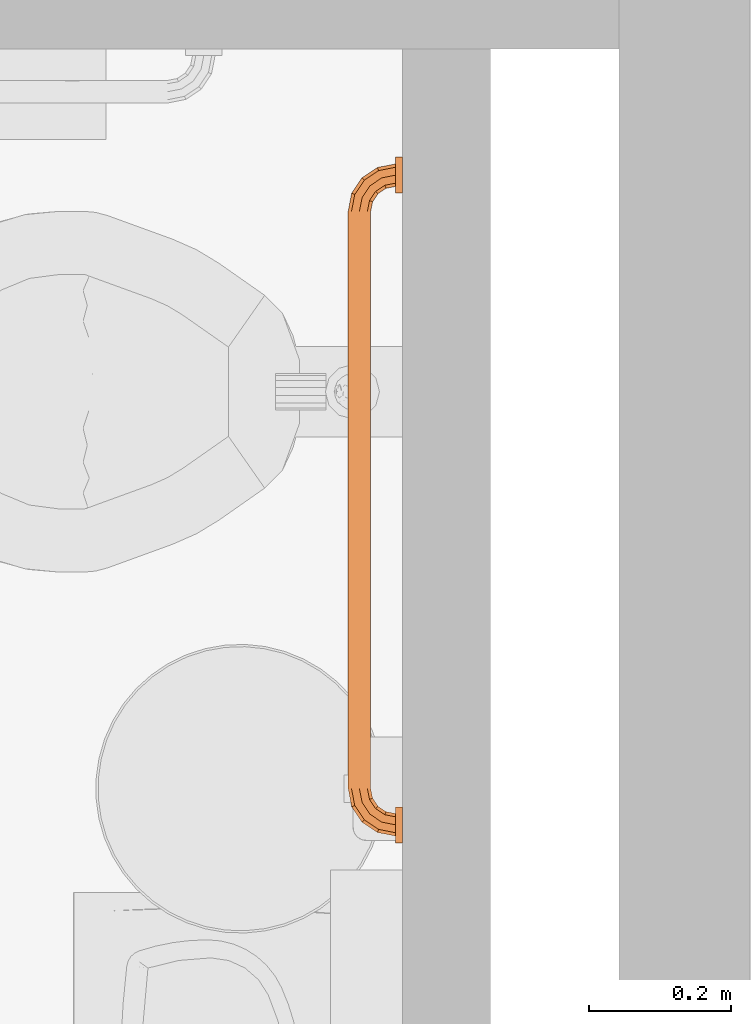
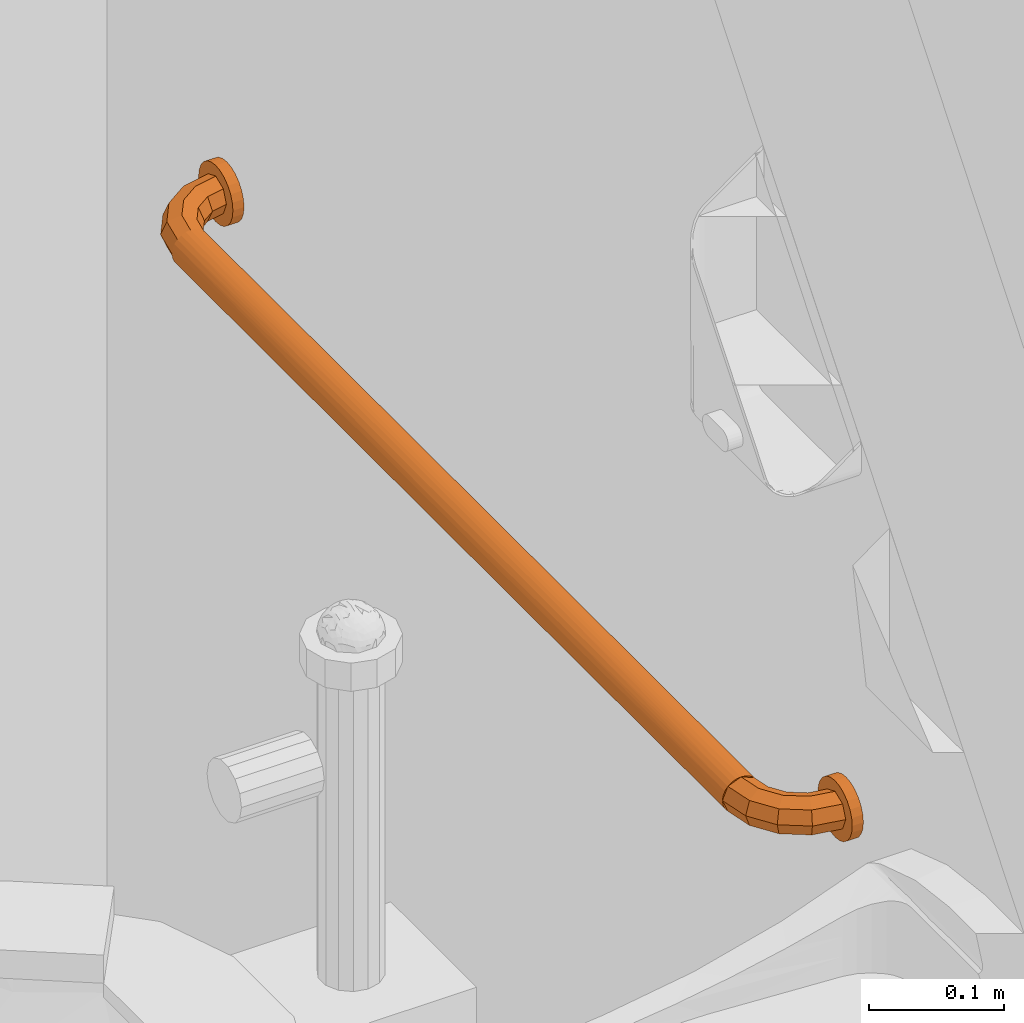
# One storey, part 142 of 142: 1 proxy.
"""IFC2X3 building model written with IfcOpenShell, lengths in feet."""

from ifc_helpers import new_model, entity, si_unit, converted_unit, derived_unit, direction, frame, origin, place, context, subcontext, project, spatial, faceted_brep, source, transform, mapped, type_object, type_shapes, element, save


model = new_model("IFC2X3")

# Units and contexts
model_context = context("Model", 3, precision=0.0001, world=origin(), true_north=direction((6.12303176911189e-17, 1.0)))
body_context = subcontext(model_context, "Body", "Model", "MODEL_VIEW")
ifc_project = project(units=[converted_unit("LENGTHUNIT", "FOOT", entity("IfcRatioMeasure", 0.3048), si_unit("LENGTHUNIT", "METRE"), dimensions=[1, 0, 0, 0, 0, 0, 0]), converted_unit("AREAUNIT", "SQUARE FOOT", entity("IfcRatioMeasure", 0.09290304), si_unit("AREAUNIT", "SQUARE_METRE"), dimensions=[2, 0, 0, 0, 0, 0, 0]), converted_unit("VOLUMEUNIT", "CUBIC FOOT", entity("IfcRatioMeasure", 0.028316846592), si_unit("VOLUMEUNIT", "CUBIC_METRE"), dimensions=[3, 0, 0, 0, 0, 0, 0]), converted_unit("PLANEANGLEUNIT", "DEGREE", entity("IfcRatioMeasure", 0.0174532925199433), si_unit("PLANEANGLEUNIT", "RADIAN"), dimensions=[0, 0, 0, 0, 0, 0, 0]), si_unit("MASSUNIT", "GRAM", prefix="KILO"), derived_unit("MASSDENSITYUNIT", [(si_unit("MASSUNIT", "GRAM", prefix="KILO"), 1), (si_unit("LENGTHUNIT", "METRE"), -3)]), si_unit("TIMEUNIT", "SECOND"), si_unit("FREQUENCYUNIT", "HERTZ"), si_unit("THERMODYNAMICTEMPERATUREUNIT", "DEGREE_CELSIUS"), derived_unit("THERMALTRANSMITTANCEUNIT", [(si_unit("MASSUNIT", "GRAM", prefix="KILO"), 1), (si_unit("THERMODYNAMICTEMPERATUREUNIT", "KELVIN"), -1), (si_unit("TIMEUNIT", "SECOND"), -3)]), derived_unit("VOLUMETRICFLOWRATEUNIT", [(si_unit("LENGTHUNIT", "METRE"), 3), (si_unit("TIMEUNIT", "SECOND"), -1)]), si_unit("ELECTRICCURRENTUNIT", "AMPERE"), si_unit("ELECTRICVOLTAGEUNIT", "VOLT"), si_unit("POWERUNIT", "WATT"), si_unit("FORCEUNIT", "NEWTON"), si_unit("ILLUMINANCEUNIT", "LUX"), si_unit("LUMINOUSFLUXUNIT", "LUMEN"), si_unit("LUMINOUSINTENSITYUNIT", "CANDELA"), derived_unit("USERDEFINED", [(si_unit("MASSUNIT", "GRAM", prefix="KILO"), -1), (si_unit("LENGTHUNIT", "METRE"), -2), (si_unit("TIMEUNIT", "SECOND"), 3), (si_unit("LUMINOUSFLUXUNIT", "LUMEN"), 1)]), derived_unit("LINEARVELOCITYUNIT", [(si_unit("LENGTHUNIT", "METRE"), 1), (si_unit("TIMEUNIT", "SECOND"), -1)]), si_unit("PRESSUREUNIT", "PASCAL"), derived_unit("USERDEFINED", [(si_unit("LENGTHUNIT", "METRE"), -2), (si_unit("MASSUNIT", "GRAM", prefix="KILO"), 1), (si_unit("TIMEUNIT", "SECOND"), -2)])], contexts=[model_context])

# Site, building, storey, space
site_placement = place(None, origin())
site = spatial("IfcSite", under=ifc_project, at=site_placement, Name="Default", CompositionType="ELEMENT")
building_placement = place(site_placement, origin())
building = spatial("IfcBuilding", under=site, at=building_placement, Name="OUTPATIENT / PACT CLINIC (Ch. 265)", CompositionType="ELEMENT")
storey_placement = place(building_placement, origin())
storey = spatial("IfcBuildingStorey", under=building, at=storey_placement, Name="LEVEL 1", CompositionType="ELEMENT", Elevation=0.0)
space_placement = place(storey_placement, origin())
space = spatial("IfcSpace", under=storey, at=space_placement, Name="TNPG1", CompositionType="ELEMENT", InteriorOrExteriorSpace="INTERNAL")

# Proxy
building_element_proxy_type = type_object("IfcBuildingElementProxyType", Name="A5109 - Grab Bar, 1.25 in Dia, SS, 2 Wall, W-C Accessible_Improved 2", PredefinedType="NOTDEFINED")
shared_shape = source(origin(), body_context, "Body", "Brep", [
    faceted_brep([(0.987313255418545, 0.0950305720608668, 0.0520833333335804), (0.953288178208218, 0.0809369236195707, 0.0368284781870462), (0.963171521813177, 0.031249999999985, 0.0368284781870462), (1.0, 0.0312499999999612, 0.0520833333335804), (0.939194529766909, 0.0750991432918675, 0.0), (0.947916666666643, 0.0312499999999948, 0.0), (0.953288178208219, 0.0809369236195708, -0.0368284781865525), (0.963171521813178, 0.031249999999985, -0.0368284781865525), (0.987313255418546, 0.0950305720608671, -0.0520833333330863), (1.0, 0.0312499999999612, -0.0520833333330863), (1.02133833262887, 0.109124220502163, -0.036828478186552), (1.03682847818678, 0.0312499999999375, -0.036828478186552), (1.03543198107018, 0.114962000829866, 0.0), (1.05208333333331, 0.0312499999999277, 0.0), (1.02133833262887, 0.109124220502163, 0.0368284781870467), (1.03682847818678, 0.0312499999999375, 0.0368284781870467), (0.951184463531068, 0.149101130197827, 0.0520833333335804), (0.925142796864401, 0.12305946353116, 0.0368284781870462), (0.914355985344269, 0.112272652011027, 0.0), (0.925142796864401, 0.12305946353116, -0.0368284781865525), (0.951184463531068, 0.149101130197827, -0.0520833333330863), (0.977226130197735, 0.175142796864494, -0.036828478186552), (0.988012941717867, 0.185929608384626, 0.0), (0.977226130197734, 0.175142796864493, 0.0368284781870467), (0.897113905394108, 0.185229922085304, 0.0520833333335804), (0.883020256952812, 0.151204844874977, 0.0368284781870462), (0.877182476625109, 0.137111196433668, 0.0), (0.883020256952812, 0.151204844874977, -0.0368284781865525), (0.897113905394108, 0.185229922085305, -0.0520833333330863), (0.911207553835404, 0.219254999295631, -0.036828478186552), (0.917045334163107, 0.23334864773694, 0.0), (0.911207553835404, 0.219254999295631, 0.0368284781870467), (0.833333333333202, 0.197916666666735, 0.0520833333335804), (0.833333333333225, 0.161088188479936, 0.0368284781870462), (0.833333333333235, 0.145833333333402, 0.0), (0.833333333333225, 0.161088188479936, -0.0368284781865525), (0.833333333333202, 0.197916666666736, -0.0520833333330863), (0.833333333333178, 0.234745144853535, -0.036828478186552), (0.833333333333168, 0.250000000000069, 0.0), (0.833333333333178, 0.234745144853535, 0.0368284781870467)], [[[0, 1, 2, 3]], [[1, 4, 5, 2]], [[4, 6, 7, 5]], [[6, 8, 9, 7]], [[8, 10, 11, 9]], [[10, 12, 13, 11]], [[12, 14, 15, 13]], [[14, 0, 3, 15]], [[16, 17, 1, 0]], [[17, 18, 4, 1]], [[18, 19, 6, 4]], [[19, 20, 8, 6]], [[20, 21, 10, 8]], [[21, 22, 12, 10]], [[22, 23, 14, 12]], [[23, 16, 0, 14]], [[24, 25, 17, 16]], [[25, 26, 18, 17]], [[26, 27, 19, 18]], [[27, 28, 20, 19]], [[28, 29, 21, 20]], [[29, 30, 22, 21]], [[30, 31, 23, 22]], [[31, 24, 16, 23]], [[32, 33, 25, 24]], [[33, 34, 26, 25]], [[34, 35, 27, 26]], [[35, 36, 28, 27]], [[36, 37, 29, 28]], [[37, 38, 30, 29]], [[38, 39, 31, 30]], [[39, 32, 24, 31]], [[3, 2, 5, 7, 9, 11, 13, 15]], [[39, 38, 37, 36, 35, 34, 33, 32]]]),
    faceted_brep([(0.958333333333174, 0.0312499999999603, -0.0721687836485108), (0.941074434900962, 0.0312499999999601, -0.0589255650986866), (0.927831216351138, 0.0312499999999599, -0.0416666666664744), (0.919506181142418, 0.0312499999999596, -0.0215682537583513), (0.916666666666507, 0.0312499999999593, 0.0), (0.919506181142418, 0.031249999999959, 0.021568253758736), (0.927831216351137, 0.0312499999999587, 0.0416666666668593), (0.941074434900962, 0.0312499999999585, 0.0589255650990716), (0.958333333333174, 0.0312499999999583, 0.0721687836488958), (0.978431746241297, 0.0312499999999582, 0.080493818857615), (1.0, 0.0312499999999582, 0.083333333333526), (1.02156825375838, 0.0312499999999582, 0.080493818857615), (1.04166666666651, 0.0312499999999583, 0.0721687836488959), (1.05892556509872, 0.0312499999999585, 0.0589255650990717), (1.07216878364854, 0.0312499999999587, 0.0416666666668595), (1.08049381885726, 0.031249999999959, 0.0215682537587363), (1.08333333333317, 0.0312499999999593, 0.0), (1.08049381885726, 0.0312499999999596, -0.0215682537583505), (1.07216878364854, 0.0312499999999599, -0.0416666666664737), (1.05892556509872, 0.0312499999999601, -0.0589255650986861), (1.04166666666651, 0.0312499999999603, -0.0721687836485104), (1.02156825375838, 0.0312499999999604, -0.0804938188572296), (1.0, 0.0312499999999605, -0.0833333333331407), (0.978431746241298, 0.0312499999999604, -0.0804938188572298), (0.978431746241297, 0.0, 0.0804938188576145), (0.958333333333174, 0.0, 0.0721687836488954), (0.941074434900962, 0.0, 0.0589255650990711), (0.927831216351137, 0.0, 0.0416666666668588), (0.919506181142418, 0.0, 0.0215682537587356), (0.916666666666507, 0.0, 0.0), (0.919506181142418, 0.0, -0.0215682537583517), (0.927831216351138, 0.0, -0.0416666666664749), (0.941074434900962, 0.0, -0.0589255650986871), (0.958333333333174, 0.0, -0.0721687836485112), (0.978431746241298, 0.0, -0.0804938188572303), (1.0, 0.0, -0.0833333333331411), (1.02156825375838, 0.0, -0.0804938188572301), (1.04166666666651, 0.0, -0.0721687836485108), (1.05892556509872, 0.0, -0.0589255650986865), (1.07216878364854, 0.0, -0.0416666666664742), (1.08049381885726, 0.0, -0.0215682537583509), (1.08333333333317, 0.0, 0.0), (1.08049381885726, 0.0, 0.0215682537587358), (1.07216878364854, 0.0, 0.0416666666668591), (1.05892556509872, 0.0, 0.0589255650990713), (1.04166666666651, 0.0, 0.0721687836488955), (1.02156825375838, 0.0, 0.0804938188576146), (1.0, 0.0, 0.0833333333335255)], [[[0, 1, 2, 3, 4, 5, 6, 7, 8, 9, 10, 11, 12, 13, 14, 15, 16, 17, 18, 19, 20, 21, 22, 23]], [[24, 25, 26, 27, 28, 29, 30, 31, 32, 33, 34, 35, 36, 37, 38, 39, 40, 41, 42, 43, 44, 45, 46, 47]], [[40, 17, 16, 41]], [[39, 18, 17, 40]], [[20, 19, 38, 37]], [[39, 38, 19, 18]], [[21, 20, 37, 36]], [[22, 21, 36, 35]], [[34, 23, 22, 35]], [[33, 0, 23, 34]], [[2, 1, 32, 31]], [[33, 32, 1, 0]], [[3, 2, 31, 30]], [[4, 3, 30, 29]], [[28, 5, 4, 29]], [[27, 6, 5, 28]], [[8, 7, 26, 25]], [[27, 26, 7, 6]], [[9, 8, 25, 24]], [[10, 9, 24, 47]], [[46, 11, 10, 47]], [[45, 12, 11, 46]], [[14, 13, 44, 43]], [[45, 44, 13, 12]], [[15, 14, 43, 42]], [[16, 15, 42, 41]]]),
    faceted_brep([(-1.89711390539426, 0.185229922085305, 0.052083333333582), (-1.88302025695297, 0.151204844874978, 0.0368284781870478), (-1.83333333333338, 0.161088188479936, 0.0368284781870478), (-1.83333333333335, 0.197916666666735, 0.052083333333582), (-1.87718247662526, 0.137111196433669, 0.0), (-1.83333333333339, 0.145833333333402, 0.0), (-1.88302025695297, 0.151204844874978, -0.0368284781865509), (-1.83333333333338, 0.161088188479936, -0.0368284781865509), (-1.89711390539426, 0.185229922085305, -0.0520833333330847), (-1.83333333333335, 0.197916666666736, -0.0520833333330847), (-1.91120755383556, 0.219254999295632, -0.0368284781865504), (-1.83333333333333, 0.234745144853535, -0.0368284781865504), (-1.91704533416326, 0.233348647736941, 0.0), (-1.83333333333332, 0.250000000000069, 0.0), (-1.91120755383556, 0.219254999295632, 0.0368284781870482), (-1.83333333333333, 0.234745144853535, 0.0368284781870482), (-1.95118446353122, 0.149101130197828, 0.052083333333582), (-1.92514279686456, 0.123059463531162, 0.0368284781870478), (-1.91435598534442, 0.112272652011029, 0.0), (-1.92514279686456, 0.123059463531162, -0.0368284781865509), (-1.95118446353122, 0.149101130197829, -0.0520833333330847), (-1.97722613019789, 0.175142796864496, -0.0368284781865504), (-1.98801294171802, 0.185929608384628, 0.0), (-1.97722613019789, 0.175142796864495, 0.0368284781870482), (-1.9873132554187, 0.0950305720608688, 0.052083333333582), (-1.95328817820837, 0.0809369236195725, 0.0368284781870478), (-1.93919452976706, 0.0750991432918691, 0.0), (-1.95328817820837, 0.0809369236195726, -0.0368284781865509), (-1.9873132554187, 0.0950305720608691, -0.0520833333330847), (-2.02133833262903, 0.109124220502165, -0.0368284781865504), (-2.03543198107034, 0.114962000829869, 0.0), (-2.02133833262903, 0.109124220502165, 0.0368284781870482), (-2.0, 0.0312499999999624, 0.052083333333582), (-1.96317152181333, 0.0312499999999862, 0.0368284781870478), (-1.9479166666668, 0.0312499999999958, 0.0), (-1.96317152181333, 0.0312499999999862, -0.0368284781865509), (-2.0, 0.0312499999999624, -0.0520833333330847), (-2.03682847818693, 0.0312499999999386, -0.0368284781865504), (-2.05208333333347, 0.031249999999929, 0.0), (-2.03682847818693, 0.0312499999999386, 0.0368284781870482)], [[[0, 1, 2, 3]], [[1, 4, 5, 2]], [[4, 6, 7, 5]], [[6, 8, 9, 7]], [[8, 10, 11, 9]], [[10, 12, 13, 11]], [[12, 14, 15, 13]], [[14, 0, 3, 15]], [[16, 17, 1, 0]], [[17, 18, 4, 1]], [[18, 19, 6, 4]], [[19, 20, 8, 6]], [[20, 21, 10, 8]], [[21, 22, 12, 10]], [[22, 23, 14, 12]], [[23, 16, 0, 14]], [[24, 25, 17, 16]], [[25, 26, 18, 17]], [[26, 27, 19, 18]], [[27, 28, 20, 19]], [[28, 29, 21, 20]], [[29, 30, 22, 21]], [[30, 31, 23, 22]], [[31, 24, 16, 23]], [[32, 33, 25, 24]], [[33, 34, 26, 25]], [[34, 35, 27, 26]], [[35, 36, 28, 27]], [[36, 37, 29, 28]], [[37, 38, 30, 29]], [[38, 39, 31, 30]], [[39, 32, 24, 31]], [[3, 2, 5, 7, 9, 11, 13, 15]], [[39, 38, 37, 36, 35, 34, 33, 32]]]),
    faceted_brep([(-1.97843174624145, 0.0312499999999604, -0.0804938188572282), (-2.0, 0.0312499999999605, -0.0833333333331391), (-2.02156825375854, 0.0312499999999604, -0.080493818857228), (-2.04166666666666, 0.0312499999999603, -0.0721687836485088), (-2.05892556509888, 0.0312499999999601, -0.0589255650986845), (-2.0721687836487, 0.0312499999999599, -0.0416666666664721), (-2.08049381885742, 0.0312499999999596, -0.0215682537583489), (-2.08333333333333, 0.0312499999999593, 0.0), (-2.08049381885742, 0.031249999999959, 0.0215682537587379), (-2.0721687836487, 0.0312499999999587, 0.0416666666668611), (-2.05892556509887, 0.0312499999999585, 0.0589255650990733), (-2.04166666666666, 0.0312499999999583, 0.0721687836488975), (-2.02156825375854, 0.0312499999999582, 0.0804938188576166), (-2.0, 0.0312499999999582, 0.0833333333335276), (-1.97843174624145, 0.0312499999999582, 0.0804938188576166), (-1.95833333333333, 0.0312499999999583, 0.0721687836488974), (-1.94107443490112, 0.0312499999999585, 0.0589255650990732), (-1.92783121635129, 0.0312499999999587, 0.0416666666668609), (-1.91950618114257, 0.031249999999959, 0.0215682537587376), (-1.91666666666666, 0.0312499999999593, 0.0), (-1.91950618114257, 0.0312499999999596, -0.0215682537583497), (-1.92783121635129, 0.0312499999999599, -0.0416666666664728), (-1.94107443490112, 0.0312499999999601, -0.058925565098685), (-1.95833333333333, 0.0312499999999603, -0.0721687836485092), (-2.0, 0.0, 0.0833333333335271), (-2.02156825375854, 0.0, 0.0804938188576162), (-2.04166666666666, 0.0, 0.0721687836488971), (-2.05892556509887, 0.0, 0.0589255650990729), (-2.0721687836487, 0.0, 0.0416666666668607), (-2.08049381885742, 0.0, 0.0215682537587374), (-2.08333333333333, 0.0, 0.0), (-2.08049381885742, 0.0, -0.0215682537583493), (-2.0721687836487, 0.0, -0.0416666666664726), (-2.05892556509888, 0.0, -0.0589255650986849), (-2.04166666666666, 0.0, -0.0721687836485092), (-2.02156825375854, 0.0, -0.0804938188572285), (-2.0, 0.0, -0.0833333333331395), (-1.97843174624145, 0.0, -0.0804938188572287), (-1.95833333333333, 0.0, -0.0721687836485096), (-1.94107443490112, 0.0, -0.0589255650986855), (-1.92783121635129, 0.0, -0.0416666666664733), (-1.91950618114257, 0.0, -0.0215682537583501), (-1.91666666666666, 0.0, 0.0), (-1.91950618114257, 0.0, 0.0215682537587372), (-1.92783121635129, 0.0, 0.0416666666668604), (-1.94107443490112, 0.0, 0.0589255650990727), (-1.95833333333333, 0.0, 0.072168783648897), (-1.97843174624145, 0.0, 0.0804938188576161)], [[[0, 1, 2, 3, 4, 5, 6, 7, 8, 9, 10, 11, 12, 13, 14, 15, 16, 17, 18, 19, 20, 21, 22, 23]], [[24, 25, 26, 27, 28, 29, 30, 31, 32, 33, 34, 35, 36, 37, 38, 39, 40, 41, 42, 43, 44, 45, 46, 47]], [[30, 7, 6, 31]], [[31, 6, 5, 32]], [[34, 33, 4, 3]], [[4, 33, 32, 5]], [[35, 34, 3, 2]], [[35, 2, 1, 36]], [[36, 1, 0, 37]], [[37, 0, 23, 38]], [[40, 39, 22, 21]], [[22, 39, 38, 23]], [[41, 40, 21, 20]], [[41, 20, 19, 42]], [[42, 19, 18, 43]], [[43, 18, 17, 44]], [[46, 45, 16, 15]], [[16, 45, 44, 17]], [[47, 46, 15, 14]], [[47, 14, 13, 24]], [[24, 13, 12, 25]], [[25, 12, 11, 26]], [[28, 27, 10, 9]], [[10, 27, 26, 11]], [[29, 28, 9, 8]], [[29, 8, 7, 30]]]),
    faceted_brep([(0.833333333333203, 0.161088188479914, 0.0368284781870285), (0.833333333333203, 0.152811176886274, 0.0260416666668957), (0.833333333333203, 0.147608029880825, 0.0134801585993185), (0.833333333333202, 0.14583333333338, 0.0), (0.833333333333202, 0.147608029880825, -0.0134801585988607), (0.833333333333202, 0.152811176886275, -0.0260416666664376), (0.833333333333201, 0.161088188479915, -0.0368284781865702), (0.833333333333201, 0.171875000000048, -0.0451054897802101), (0.833333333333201, 0.184436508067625, -0.0503086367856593), (0.833333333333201, 0.197916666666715, -0.0520833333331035), (0.833333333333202, 0.211396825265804, -0.0503086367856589), (0.833333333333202, 0.223958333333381, -0.0451054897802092), (0.833333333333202, 0.234745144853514, -0.0368284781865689), (0.833333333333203, 0.243022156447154, -0.0260416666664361), (0.833333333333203, 0.248225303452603, -0.013480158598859), (0.833333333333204, 0.250000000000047, 0.0), (0.833333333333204, 0.248225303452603, 0.0134801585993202), (0.833333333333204, 0.243022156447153, 0.0260416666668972), (0.833333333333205, 0.234745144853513, 0.0368284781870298), (0.833333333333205, 0.22395833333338, 0.0451054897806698), (0.833333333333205, 0.211396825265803, 0.050308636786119), (0.833333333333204, 0.197916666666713, 0.0520833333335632), (0.833333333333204, 0.184436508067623, 0.0503086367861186), (0.833333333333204, 0.171875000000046, 0.0451054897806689), (-1.83333333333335, 0.250000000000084, 0.0), (-1.83333333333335, 0.24822530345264, -0.0134801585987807), (-1.83333333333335, 0.243022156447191, -0.0260416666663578), (-1.83333333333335, 0.234745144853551, -0.0368284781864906), (-1.83333333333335, 0.223958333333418, -0.0451054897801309), (-1.83333333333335, 0.211396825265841, -0.0503086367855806), (-1.83333333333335, 0.197916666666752, -0.0520833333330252), (-1.83333333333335, 0.184436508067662, -0.050308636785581), (-1.83333333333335, 0.171875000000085, -0.0451054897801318), (-1.83333333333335, 0.161088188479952, -0.0368284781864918), (-1.83333333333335, 0.152811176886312, -0.0260416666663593), (-1.83333333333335, 0.147608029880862, -0.0134801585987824), (-1.83333333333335, 0.145833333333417, 0.0), (-1.83333333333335, 0.147608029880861, 0.0134801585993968), (-1.83333333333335, 0.152811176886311, 0.026041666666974), (-1.83333333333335, 0.161088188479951, 0.0368284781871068), (-1.83333333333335, 0.171875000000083, 0.0451054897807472), (-1.83333333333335, 0.18443650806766, 0.0503086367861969), (-1.83333333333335, 0.19791666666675, 0.0520833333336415), (-1.83333333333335, 0.21139682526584, 0.0503086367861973), (-1.83333333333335, 0.223958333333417, 0.0451054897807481), (-1.83333333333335, 0.23474514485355, 0.036828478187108), (-1.83333333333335, 0.24302215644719, 0.0260416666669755), (-1.83333333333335, 0.248225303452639, 0.0134801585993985), (0.027611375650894, 0.177985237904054, 0.0481187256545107), (0.213018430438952, 0.166210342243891, 0.0413204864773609), (0.0276113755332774, 0.156596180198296, 0.0317063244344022), (0.223932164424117, 0.149797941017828, 0.0199314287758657), (0.213018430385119, 0.14979794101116, -0.0199314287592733), (-0.500000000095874, 0.149797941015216, -0.0199314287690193), (-1.2130184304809, 0.14979794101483, -0.0199314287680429), (-0.500000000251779, 0.154851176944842, -0.0292922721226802), (0.21301843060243, 0.166210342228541, -0.0413204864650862), (-0.38666469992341, 0.187504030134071, -0.0510318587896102), (0.273230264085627, 0.187922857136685, -0.0511155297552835), (0.0276113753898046, 0.177985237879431, -0.0481187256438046), (-0.49999999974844, 0.166210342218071, -0.0413204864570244), (-1.02761137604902, 0.156596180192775, -0.0317063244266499), (-1.21301843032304, 0.166210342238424, -0.0413204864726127), (0.027611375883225, 0.15659618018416, -0.0317063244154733), (-0.500000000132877, 0.146752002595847, -0.00973913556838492), (-1.02761137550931, 0.146278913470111, -0.00679823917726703), (-1.02761137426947, 0.177985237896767, -0.0481187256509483), (-0.499999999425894, 0.177964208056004, -0.0481100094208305), (-1.02761137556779, 0.156596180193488, 0.0317063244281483), (-0.00758943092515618, 0.197916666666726, -0.0520833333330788), (-1.27323026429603, 0.18792285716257, 0.0511155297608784), (-0.992385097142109, 0.197916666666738, 0.0520833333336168), (0.0276113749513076, 0.146278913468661, -0.00679823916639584), (0.200359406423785, 0.146278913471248, 0.00679823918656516), (-1.22393216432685, 0.149797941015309, 0.0199314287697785), (-0.500000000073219, 0.149797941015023, 0.0199314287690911), (-0.49999999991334, 0.154851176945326, 0.0292922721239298), (-1.20035940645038, 0.146278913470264, 0.00679823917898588), (-1.21301843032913, 0.166210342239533, 0.041320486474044), (-0.499999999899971, 0.166210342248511, 0.0413204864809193), (-1.02761137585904, 0.177985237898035, 0.0481187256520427), (-0.50000000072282, 0.145915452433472, 0.00292358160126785), (0.264201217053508, 0.188316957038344, 0.051191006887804), (-1.26420121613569, 0.188316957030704, -0.0511910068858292), (-0.613335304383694, 0.187504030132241, 0.0510318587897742), (-0.50000000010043, 0.177964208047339, 0.0481100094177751), (-0.920461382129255, 0.197916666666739, -0.052083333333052), (-0.079537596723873, 0.197916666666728, -0.0520833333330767), (-0.0795258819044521, 0.197916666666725, 0.05208333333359), (-0.920474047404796, 0.197916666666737, 0.0520833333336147), (-0.992408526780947, 0.19791666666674, -0.0520833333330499), (-0.00758275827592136, 0.197916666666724, 0.0520833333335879), (0.0276113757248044, 0.217848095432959, -0.0481187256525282), (0.213018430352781, 0.229622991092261, -0.0413204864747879), (0.0276113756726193, 0.239237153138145, -0.0317063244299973), (0.223932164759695, 0.24603539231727, -0.0199314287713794), (0.213018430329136, 0.246035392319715, 0.0199314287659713), (-0.500000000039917, 0.246035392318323, 0.0199314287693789), (-1.21301843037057, 0.246035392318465, 0.0199314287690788), (-0.50000000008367, 0.240982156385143, 0.0292922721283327), (0.213018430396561, 0.229622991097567, 0.0413204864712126), (-0.386664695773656, 0.208329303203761, 0.0510318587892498), (0.273230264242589, 0.207910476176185, 0.0511155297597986), (0.0276113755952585, 0.217848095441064, 0.0481187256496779), (-0.49999999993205, 0.229622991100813, 0.0413204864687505), (-1.02761137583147, 0.239237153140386, 0.0317063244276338), (-1.21301843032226, 0.229622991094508, 0.0413204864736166), (0.0276113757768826, 0.239237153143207, 0.0317063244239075), (-0.500000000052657, 0.249081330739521, 0.00973913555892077), (-1.02761137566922, 0.249554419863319, 0.00679823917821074), (-1.02761137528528, 0.217848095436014, 0.0481187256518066), (-0.499999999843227, 0.217869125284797, 0.0481100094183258), (-1.0276113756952, 0.239237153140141, -0.0317063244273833), (-1.27323026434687, 0.207910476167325, -0.0511155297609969), (0.0276113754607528, 0.249554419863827, 0.00679823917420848), (0.200359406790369, 0.249554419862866, -0.0067982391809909), (-1.22393216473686, 0.246035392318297, -0.0199314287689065), (-0.500000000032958, 0.246035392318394, -0.0199314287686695), (-0.499999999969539, 0.240982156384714, -0.0292922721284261), (-1.20035940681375, 0.249554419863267, -0.00679823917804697), (-1.21301843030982, 0.229622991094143, -0.0413204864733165), (-0.499999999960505, 0.229622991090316, -0.041320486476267), (-1.02761137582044, 0.217848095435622, -0.0481187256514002), (-0.500000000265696, 0.249917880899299, -0.00292358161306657), (0.264201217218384, 0.207516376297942, -0.0511910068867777), (-1.26420121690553, 0.207516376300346, 0.0511910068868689), (-0.613335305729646, 0.20832930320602, -0.0510318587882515), (-0.500000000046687, 0.217869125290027, -0.048110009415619)], [[[0, 1, 2, 3, 4, 5, 6, 7, 8, 9, 10, 11, 12, 13, 14, 15, 16, 17, 18, 19, 20, 21, 22, 23]], [[24, 25, 26, 27, 28, 29, 30, 31, 32, 33, 34, 35, 36, 37, 38, 39, 40, 41, 42, 43, 44, 45, 46, 47]], [[23, 48, 49]], [[1, 50, 51]], [[52, 53, 54, 55]], [[7, 6, 56]], [[35, 34, 54]], [[57, 58, 59]], [[59, 58, 8]], [[60, 61, 62]], [[60, 56, 63]], [[34, 61, 54]], [[54, 64, 65]], [[32, 31, 66]], [[65, 36, 35]], [[57, 67, 66]], [[32, 62, 33]], [[68, 39, 38]], [[58, 69, 9]], [[42, 70, 71]], [[59, 56, 60]], [[60, 62, 66]], [[63, 52, 55]], [[72, 3, 73]], [[52, 5, 4]], [[6, 5, 63]], [[4, 72, 52]], [[74, 75, 51, 76]], [[77, 74, 37]], [[39, 68, 78]], [[61, 60, 55]], [[7, 59, 8]], [[79, 80, 78]], [[79, 49, 48]], [[81, 77, 65]], [[53, 52, 64, 54]], [[40, 39, 78]], [[6, 63, 56]], [[23, 22, 48]], [[72, 4, 3]], [[2, 51, 73]], [[0, 50, 1]], [[61, 34, 33]], [[32, 66, 62]], [[50, 49, 79]], [[79, 78, 68]], [[82, 22, 21]], [[74, 76, 68]], [[49, 0, 23]], [[83, 31, 30]], [[37, 36, 77]], [[80, 41, 40]], [[73, 3, 2]], [[65, 77, 36]], [[50, 79, 76]], [[84, 85, 48]], [[80, 70, 41]], [[84, 70, 80]], [[59, 67, 57]], [[66, 31, 83]], [[80, 85, 84]], [[48, 22, 82]], [[38, 37, 74]], [[81, 73, 75]], [[81, 64, 72]], [[1, 51, 2]], [[35, 54, 65]], [[5, 52, 63]], [[7, 56, 59]], [[33, 62, 61]], [[0, 49, 50]], [[40, 78, 80]], [[38, 74, 68]], [[74, 77, 75]], [[51, 75, 73]], [[77, 81, 75]], [[81, 72, 73]], [[65, 64, 81]], [[72, 64, 52]], [[8, 58, 9]], [[69, 58, 57]], [[57, 86, 87, 69]], [[83, 86, 57]], [[67, 60, 66]], [[67, 59, 60]], [[63, 55, 60]], [[61, 55, 54]], [[68, 76, 79]], [[50, 76, 51]], [[41, 70, 42]], [[71, 70, 84]], [[84, 88, 89, 71]], [[82, 88, 84]], [[85, 79, 48]], [[85, 80, 79]], [[66, 83, 57]], [[83, 30, 90, 86]], [[48, 82, 84]], [[82, 21, 91, 88]], [[11, 92, 93]], [[13, 94, 95]], [[96, 97, 98, 99]], [[19, 18, 100]], [[47, 46, 98]], [[101, 102, 103]], [[103, 102, 20]], [[104, 105, 106]], [[104, 100, 107]], [[46, 105, 98]], [[98, 108, 109]], [[44, 43, 110]], [[109, 24, 47]], [[101, 111, 110]], [[44, 106, 45]], [[112, 27, 26]], [[102, 91, 21]], [[30, 113, 90]], [[103, 100, 104]], [[104, 106, 110]], [[107, 96, 99]], [[114, 15, 115]], [[96, 17, 16]], [[18, 17, 107]], [[16, 114, 96]], [[116, 117, 95, 118]], [[119, 116, 25]], [[27, 112, 120]], [[105, 104, 99]], [[19, 103, 20]], [[121, 122, 120]], [[121, 93, 92]], [[123, 119, 109]], [[97, 96, 108, 98]], [[28, 27, 120]], [[18, 107, 100]], [[11, 10, 92]], [[114, 16, 15]], [[14, 95, 115]], [[12, 94, 13]], [[105, 46, 45]], [[44, 110, 106]], [[94, 93, 121]], [[121, 120, 112]], [[124, 10, 9]], [[116, 118, 112]], [[93, 12, 11]], [[125, 43, 42]], [[25, 24, 119]], [[122, 29, 28]], [[115, 15, 14]], [[109, 119, 24]], [[94, 121, 118]], [[126, 127, 92]], [[122, 113, 29]], [[126, 113, 122]], [[103, 111, 101]], [[110, 43, 125]], [[122, 127, 126]], [[92, 10, 124]], [[26, 25, 116]], [[123, 115, 117]], [[123, 108, 114]], [[13, 95, 14]], [[47, 98, 109]], [[17, 96, 107]], [[19, 100, 103]], [[45, 106, 105]], [[12, 93, 94]], [[28, 120, 122]], [[26, 116, 112]], [[116, 119, 117]], [[95, 117, 115]], [[119, 123, 117]], [[123, 114, 115]], [[109, 108, 123]], [[114, 108, 96]], [[20, 102, 21]], [[91, 102, 101]], [[101, 89, 88, 91]], [[125, 89, 101]], [[111, 104, 110]], [[111, 103, 104]], [[107, 99, 104]], [[105, 99, 98]], [[112, 118, 121]], [[94, 118, 95]], [[29, 113, 30]], [[90, 113, 126]], [[126, 87, 86, 90]], [[124, 87, 126]], [[127, 121, 92]], [[127, 122, 121]], [[110, 125, 101]], [[125, 42, 71, 89]], [[92, 124, 126]], [[124, 9, 69, 87]]]),
])
type_shapes(building_element_proxy_type, [shared_shape])
proxy_placement = place(space_placement, frame((446.753802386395, -878.003852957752, 3.0), z_axis=(0.0, 0.0, 1.0), x_axis=(0.0, 1.0, 0.0)))
element("IfcBuildingElementProxy", 1, at=proxy_placement, inside=space, type_object=building_element_proxy_type, Name="A5109 - Grab Bar, 1.25 in Dia, SS, 2 Wall, W-C Accessible_Improved1:A5109 - Grab Bar, 1.25 in Dia, SS, 2 Wall, W-C Accessible_Improved 2", ObjectType="A5109 - Grab Bar, 1.25 in Dia, SS, 2 Wall, W-C Accessible_Improved 2", context=body_context, shape_type="MappedRepresentation", body=[
    mapped(shared_shape, transform((0.0, 0.0, 0.0), scale=1.0)),
])

save(model, "model.ifc")
